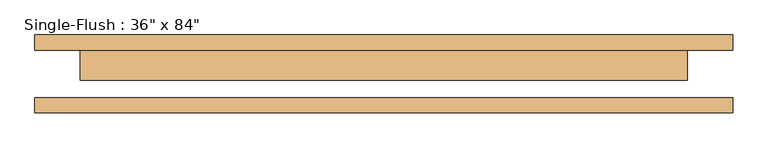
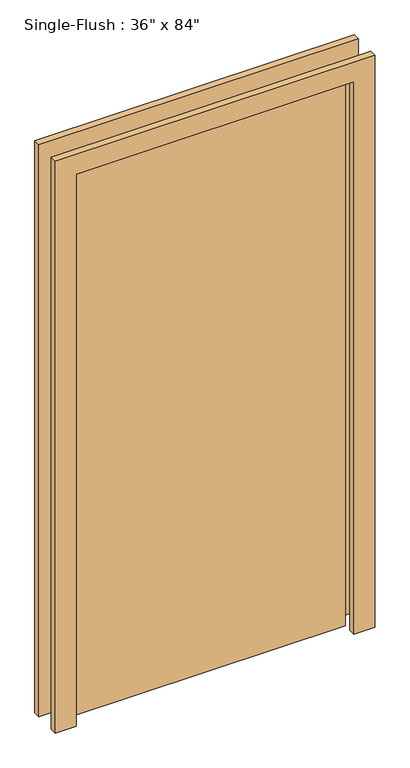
"""IFC4 building model written with IfcOpenShell, lengths in millimetres: door geometry."""

from ifc_helpers import new_model, si_unit, frame, origin, origin_with_axes, place, context, project, spatial, polyline, outline, extrude, source, transform, mapped, element, save


def door_71d5d1be(model_context):
    return source(origin(), model_context, "Body", "SweptSolid", [
        extrude(outline(polyline([(2209.8, -584.2), (0.0, -584.2), (0.0, -508.0), (2133.6, -508.0), (2133.6, 508.0), (0.0, 508.0), (0.0, 584.2), (2209.8, 584.2), (2209.8, -584.2)])), frame((0.0, 39.6875, 0.0), z_axis=(0.0, 1.0, 0.0), x_axis=(0.0, 0.0, 1.0)), (0.0, 0.0, 1.0), 25.4),
        extrude(outline(polyline([(2209.8, 584.2), (2209.8, -584.2), (0.0, -584.2), (0.0, -508.0), (2133.6, -508.0), (2133.6, 508.0), (0.0, 508.0), (0.0, 584.2), (2209.8, 584.2)])), frame((0.0, -65.0875, 0.0), z_axis=(0.0, 1.0, 0.0), x_axis=(0.0, 0.0, 1.0)), (0.0, 0.0, 1.0), 25.4),
        extrude(outline(polyline([(508.0, -11.1125), (-508.0, -11.1125), (-508.0, 39.6875), (508.0, 39.6875), (508.0, -11.1125)])), origin_with_axes(), (0.0, 0.0, 1.0), 2133.6),
    ])


if __name__ == "__main__":
    model = new_model("IFC4")
    model_context = context("Model", 3, world=origin())
    ifc_project = project(units=[si_unit("LENGTHUNIT", "METRE", prefix="MILLI")], contexts=[model_context])
    site = spatial("IfcSite", under=ifc_project)
    building = spatial("IfcBuilding", under=site)
    placement = place(None, origin())
    door_shape = door_71d5d1be(model_context)
    element("IfcDoor", 1, ObjectType="Single-Flush : 36\" x 84\"", at=placement, inside=building, context=model_context, shape_type="MappedRepresentation", body=[
        mapped(door_shape, transform((0.0, 0.0, 0.0), x_axis=(1.0, 0.0, 0.0), y_axis=(0.0, 1.0, 0.0), z_axis=(0.0, 0.0, 1.0))),
    ])
    save(model, "model.ifc")
